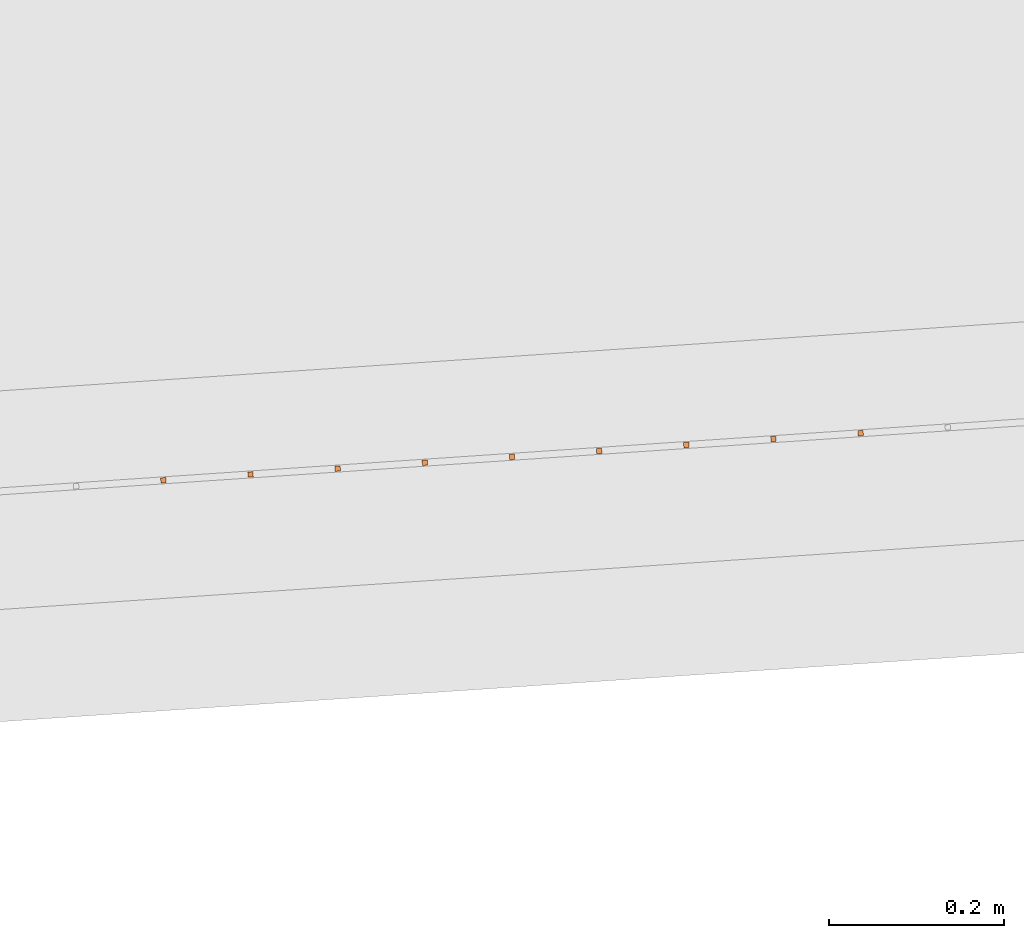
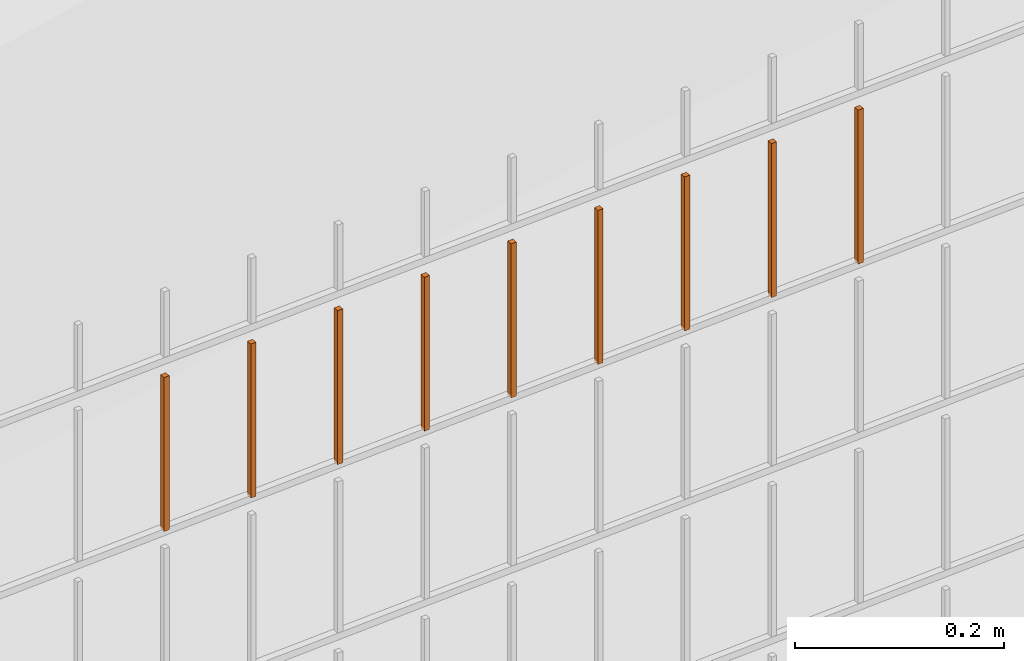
# One storey, part 131 of 1809: 9 proxies, 1 element without a shape of its own.
"""IFC2X3 building model written with IfcOpenShell, lengths in millimetres."""

from ifc_helpers import new_model, entity, si_unit, converted_unit, derived_unit, money_unit, direction, frame, origin_with_axes, place, context, subcontext, project, spatial, faceted_brep, source, transform, mapped, material, type_object, element, aggregate, save


model = new_model("IFC2X3")

# Units and contexts
model_context = context("Model", 3, precision=0.01, world=origin_with_axes(), true_north=direction((0.0, 1.0)))
body_context = subcontext(model_context, "Body", "Model", "MODEL_VIEW")
ifc_project = project(units=[si_unit("LENGTHUNIT", "METRE", prefix="MILLI"), si_unit("AREAUNIT", "SQUARE_METRE"), si_unit("VOLUMEUNIT", "CUBIC_METRE"), converted_unit("PLANEANGLEUNIT", "DEGREE", entity("IfcPlaneAngleMeasure", 0.0174532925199), si_unit("PLANEANGLEUNIT", "RADIAN"), dimensions=[0, 0, 0, 0, 0, 0, 0]), si_unit("SOLIDANGLEUNIT", "STERADIAN"), money_unit("EUR"), converted_unit("TIMEUNIT", "Year", entity("IfcTimeMeasure", 31556926.0), si_unit("TIMEUNIT", "SECOND"), dimensions=[0, 0, 1, 0, 0, 0, 0]), si_unit("MASSUNIT", "GRAM", prefix="KILO"), si_unit("THERMODYNAMICTEMPERATUREUNIT", "DEGREE_CELSIUS"), si_unit("LUMINOUSINTENSITYUNIT", "LUMEN"), si_unit("ENERGYUNIT", "JOULE", prefix="MEGA"), derived_unit("THERMALCONDUCTANCEUNIT", [(si_unit("POWERUNIT", "WATT"), 1), (si_unit("LENGTHUNIT", "METRE"), -1), (si_unit("THERMODYNAMICTEMPERATUREUNIT", "KELVIN"), -1)]), derived_unit("SPECIFICHEATCAPACITYUNIT", [(si_unit("ENERGYUNIT", "JOULE"), 1), (si_unit("MASSUNIT", "GRAM", prefix="KILO"), -1), (si_unit("THERMODYNAMICTEMPERATUREUNIT", "KELVIN"), -1)]), derived_unit("MASSDENSITYUNIT", [(si_unit("MASSUNIT", "GRAM", prefix="KILO"), 1), (si_unit("VOLUMEUNIT", "CUBIC_METRE"), -1)])], contexts=[model_context])

# Site, building, storey
site_placement = place(None, origin_with_axes())
site = spatial("IfcSite", under=ifc_project, at=site_placement, Name="Politse- ja Piirivalveameti ning Päästeameti ühishoone", CompositionType="ELEMENT")
building_placement = place(site_placement, origin_with_axes())
building = spatial("IfcBuilding", under=site, at=building_placement, Name="Politse- ja Piirivalveameti ning Päästeameti ühishoone", CompositionType="ELEMENT")
storey_placement = place(building_placement, origin_with_axes())
storey = spatial("IfcBuildingStorey", under=building, at=storey_placement, Name="Esimene korrus", CompositionType="ELEMENT", Elevation=0.0)

# Proxies
building_element_proxy_type_1 = type_object("IfcBuildingElementProxyType", Name="Railing Type", PredefinedType="NOTDEFINED")
proxy_1_placement = place(storey_placement, frame((89252.001212, -29183.4766571, 203.661247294), z_axis=(0.0, 0.0, 1.0), x_axis=(1.0, 0.0, 0.0)))
proxy_1 = element("IfcBuildingElementProxy", 1, at=proxy_1_placement, inside=storey, type_object=building_element_proxy_type_1, Name="PIIRDEAED")
ifc_material = material(Name="ET-03_Raud")
building_element_proxy_type_2 = type_object("IfcBuildingElementProxyType", Name="IfcBuildingElementProxy", PredefinedType="NOTDEFINED")
shared_shape_1 = source(origin_with_axes(), body_context, "Body", "Brep", [
    faceted_brep([(3.0, 3.0, -0.000752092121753), (-3.0, 3.0, -0.000752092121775), (-3.0, 3.0, 179.99926046), (3.0, 3.0, 179.99926046), (3.0, -3.0, 0.000752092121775), (-3.0, -3.0, 0.000752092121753), (-3.0, -3.0, 180.000764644), (3.0, -3.0, 180.000764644)], [[[0, 1, 2, 3]], [[0, 4, 5, 1]], [[1, 5, 6, 2]], [[3, 2, 6, 7]], [[4, 0, 3, 7]], [[5, 4, 7, 6]]]),
])
proxy_2_placement = place(proxy_1_placement, frame((-91119.0595055, -23452.5233603, 1804.33902467), z_axis=(0.0, 0.0, 1.0), x_axis=(1.0, 0.0, 0.0)))
proxy_2 = element("IfcBuildingElementProxy", 2, at=proxy_2_placement, type_object=building_element_proxy_type_2, material=ifc_material, Name="BALUSTER - 001", context=body_context, shape_type="MappedRepresentation", body=[
    mapped(shared_shape_1, transform((0.0, 0.0, 0.0), x_axis=(-0.0673926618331, 0.997726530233, 0.0), y_axis=(-0.997726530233, -0.0673926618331, 0.0), z_axis=(0.0, 0.0, 1.0))),
])
shared_shape_2 = source(origin_with_axes(), body_context, "Body", "Brep", [
    faceted_brep([(3.0, 3.0, -0.000752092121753), (-3.0, 3.0, -0.000752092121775), (-3.0, 3.0, 179.99926046), (3.0, 3.0, 179.99926046), (3.0, -3.0, 0.000752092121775), (-3.0, -3.0, 0.000752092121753), (-3.0, -3.0, 180.000764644), (3.0, -3.0, 180.000764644)], [[[0, 1, 2, 3]], [[0, 4, 5, 1]], [[1, 5, 6, 2]], [[3, 2, 6, 7]], [[4, 0, 3, 7]], [[5, 4, 7, 6]]]),
])
proxy_3_placement = place(proxy_1_placement, frame((-90719.9688934, -23425.5662955, 1804.43930362), z_axis=(0.0, 0.0, 1.0), x_axis=(1.0, 0.0, 0.0)))
proxy_3 = element("IfcBuildingElementProxy", 3, at=proxy_3_placement, type_object=building_element_proxy_type_2, material=ifc_material, Name="BALUSTER - 001", context=body_context, shape_type="MappedRepresentation", body=[
    mapped(shared_shape_2, transform((0.0, 0.0, 0.0), x_axis=(-0.0673926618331, 0.997726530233, 0.0), y_axis=(-0.997726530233, -0.0673926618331, 0.0), z_axis=(0.0, 0.0, 1.0))),
])
shared_shape_3 = source(origin_with_axes(), body_context, "Body", "Brep", [
    faceted_brep([(3.0, 3.0, -0.000752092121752), (-3.0, 3.0, -0.000752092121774), (-3.0, 3.0, 179.99926046), (3.0, 3.0, 179.99926046), (3.0, -3.0, 0.000752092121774), (-3.0, -3.0, 0.000752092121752), (-3.0, -3.0, 180.000764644), (3.0, -3.0, 180.000764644)], [[[0, 1, 2, 3]], [[0, 4, 5, 1]], [[1, 5, 6, 2]], [[3, 2, 6, 7]], [[4, 0, 3, 7]], [[5, 4, 7, 6]]]),
])
proxy_4_placement = place(proxy_1_placement, frame((-90420.6509343, -23405.348497, 1804.51451283), z_axis=(0.0, 0.0, 1.0), x_axis=(1.0, 0.0, 0.0)))
proxy_4 = element("IfcBuildingElementProxy", 4, at=proxy_4_placement, type_object=building_element_proxy_type_2, material=ifc_material, Name="BALUSTER - 001", context=body_context, shape_type="MappedRepresentation", body=[
    mapped(shared_shape_3, transform((0.0, 0.0, 0.0), x_axis=(-0.0673926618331, 0.997726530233, 0.0), y_axis=(-0.997726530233, -0.0673926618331, 0.0), z_axis=(0.0, 0.0, 1.0))),
])
proxy_5_placement = place(proxy_1_placement, frame((-90919.5141994, -23439.0448279, 1804.38916414), z_axis=(0.0, 0.0, 1.0), x_axis=(1.0, 0.0, 0.0)))
proxy_5 = element("IfcBuildingElementProxy", 5, at=proxy_5_placement, type_object=building_element_proxy_type_2, material=ifc_material, Name="BALUSTER - 001", context=body_context, shape_type="MappedRepresentation", body=[
    mapped(shared_shape_3, transform((0.0, 0.0, 0.0), x_axis=(-0.0673926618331, 0.997726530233, 0.0), y_axis=(-0.997726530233, -0.0673926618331, 0.0), z_axis=(0.0, 0.0, 1.0))),
])
shared_shape_4 = source(origin_with_axes(), body_context, "Body", "Brep", [
    faceted_brep([(3.0, 3.0, -0.000752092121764), (-3.0, 3.0, -0.000752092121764), (-3.0, 3.0, 179.99926046), (3.0, 3.0, 179.99926046), (3.0, -3.0, 0.000752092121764), (-3.0, -3.0, 0.000752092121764), (-3.0, -3.0, 180.000764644), (3.0, -3.0, 180.000764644)], [[[0, 1, 2, 3]], [[0, 4, 5, 1]], [[1, 5, 6, 2]], [[3, 2, 6, 7]], [[4, 0, 3, 7]], [[5, 4, 7, 6]]]),
])
proxy_6_placement = place(proxy_1_placement, frame((-91019.2868524, -23445.7840941, 1804.3640944), z_axis=(0.0, 0.0, 1.0), x_axis=(1.0, 0.0, 0.0)))
proxy_6 = element("IfcBuildingElementProxy", 6, at=proxy_6_placement, type_object=building_element_proxy_type_2, material=ifc_material, Name="BALUSTER - 001", context=body_context, shape_type="MappedRepresentation", body=[
    mapped(shared_shape_4, transform((0.0, 0.0, 0.0), x_axis=(-0.0673926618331, 0.997726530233, 0.0), y_axis=(-0.997726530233, -0.0673926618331, 0.0), z_axis=(0.0, 0.0, 1.0))),
])
shared_shape_5 = source(origin_with_axes(), body_context, "Body", "Brep", [
    faceted_brep([(3.0, 3.0, -0.000752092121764), (-3.0, 3.0, -0.000752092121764), (-3.0, 3.0, 179.99926046), (3.0, 3.0, 179.99926046), (3.0, -3.0, 0.000752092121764), (-3.0, -3.0, 0.000752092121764), (-3.0, -3.0, 180.000764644), (3.0, -3.0, 180.000764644)], [[[0, 1, 2, 3]], [[0, 4, 5, 1]], [[1, 5, 6, 2]], [[3, 2, 6, 7]], [[4, 0, 3, 7]], [[5, 4, 7, 6]]]),
])
proxy_7_placement = place(proxy_1_placement, frame((-90520.4235873, -23412.0877632, 1804.48944309), z_axis=(0.0, 0.0, 1.0), x_axis=(1.0, 0.0, 0.0)))
proxy_7 = element("IfcBuildingElementProxy", 7, at=proxy_7_placement, type_object=building_element_proxy_type_2, material=ifc_material, Name="BALUSTER - 001", context=body_context, shape_type="MappedRepresentation", body=[
    mapped(shared_shape_5, transform((0.0, 0.0, 0.0), x_axis=(-0.0673926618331, 0.997726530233, 0.0), y_axis=(-0.997726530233, -0.0673926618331, 0.0), z_axis=(0.0, 0.0, 1.0))),
])
shared_shape_6 = source(origin_with_axes(), body_context, "Body", "Brep", [
    faceted_brep([(3.0, 3.0, -0.000752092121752), (-3.0, 3.0, -0.000752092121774), (-3.0, 3.0, 179.99926046), (3.0, 3.0, 179.99926046), (3.0, -3.0, 0.000752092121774), (-3.0, -3.0, 0.000752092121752), (-3.0, -3.0, 180.000764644), (3.0, -3.0, 180.000764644)], [[[0, 1, 2, 3]], [[0, 4, 5, 1]], [[1, 5, 6, 2]], [[3, 2, 6, 7]], [[4, 0, 3, 7]], [[5, 4, 7, 6]]]),
])
proxy_8_placement = place(proxy_1_placement, frame((-90320.8782813, -23398.6092308, 1804.53958257), z_axis=(0.0, 0.0, 1.0), x_axis=(1.0, 0.0, 0.0)))
proxy_8 = element("IfcBuildingElementProxy", 8, at=proxy_8_placement, type_object=building_element_proxy_type_2, material=ifc_material, Name="BALUSTER - 001", context=body_context, shape_type="MappedRepresentation", body=[
    mapped(shared_shape_6, transform((0.0, 0.0, 0.0), x_axis=(-0.0673926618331, 0.997726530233, 0.0), y_axis=(-0.997726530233, -0.0673926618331, 0.0), z_axis=(0.0, 0.0, 1.0))),
])
shared_shape_7 = source(origin_with_axes(), body_context, "Body", "Brep", [
    faceted_brep([(3.0, 3.0, -0.000752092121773), (-3.0, 3.0, -0.000752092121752), (-3.0, 3.0, 179.99926046), (3.0, 3.0, 179.99926046), (3.0, -3.0, 0.000752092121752), (-3.0, -3.0, 0.000752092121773), (-3.0, -3.0, 180.000764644), (3.0, -3.0, 180.000764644)], [[[0, 1, 2, 3]], [[0, 4, 5, 1]], [[1, 5, 6, 2]], [[3, 2, 6, 7]], [[4, 0, 3, 7]], [[5, 4, 7, 6]]]),
])
proxy_9_placement = place(proxy_1_placement, frame((-90819.7415464, -23432.3055617, 1804.41423388), z_axis=(0.0, 0.0, 1.0), x_axis=(1.0, 0.0, 0.0)))
proxy_9 = element("IfcBuildingElementProxy", 9, at=proxy_9_placement, type_object=building_element_proxy_type_2, material=ifc_material, Name="BALUSTER - 001", context=body_context, shape_type="MappedRepresentation", body=[
    mapped(shared_shape_7, transform((0.0, 0.0, 0.0), x_axis=(-0.0673926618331, 0.997726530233, 0.0), y_axis=(-0.997726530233, -0.0673926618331, 0.0), z_axis=(0.0, 0.0, 1.0))),
])
shared_shape_8 = source(origin_with_axes(), body_context, "Body", "Brep", [
    faceted_brep([(3.0, 3.0, -0.000752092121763), (-3.0, 3.0, -0.000752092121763), (-3.0, 3.0, 179.99926046), (3.0, 3.0, 179.99926046), (3.0, -3.0, 0.000752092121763), (-3.0, -3.0, 0.000752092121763), (-3.0, -3.0, 180.000764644), (3.0, -3.0, 180.000764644)], [[[0, 1, 2, 3]], [[0, 4, 5, 1]], [[1, 5, 6, 2]], [[3, 2, 6, 7]], [[4, 0, 3, 7]], [[5, 4, 7, 6]]]),
])
proxy_10_placement = place(proxy_1_placement, frame((-90620.1962404, -23418.8270294, 1804.46437335), z_axis=(0.0, 0.0, 1.0), x_axis=(1.0, 0.0, 0.0)))
proxy_10 = element("IfcBuildingElementProxy", 10, at=proxy_10_placement, type_object=building_element_proxy_type_2, material=ifc_material, Name="BALUSTER - 001", context=body_context, shape_type="MappedRepresentation", body=[
    mapped(shared_shape_8, transform((0.0, 0.0, 0.0), x_axis=(-0.0673926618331, 0.997726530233, 0.0), y_axis=(-0.997726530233, -0.0673926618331, 0.0), z_axis=(0.0, 0.0, 1.0))),
])
aggregate(proxy_1, [proxy_8, proxy_4, proxy_7, proxy_10, proxy_3, proxy_9, proxy_5, proxy_6, proxy_2])

save(model, "model.ifc")
